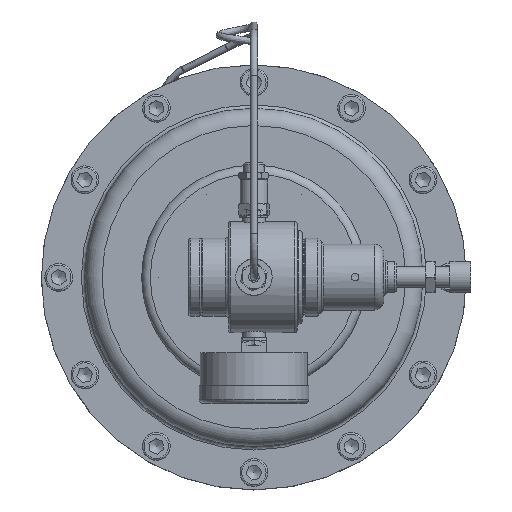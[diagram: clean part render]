
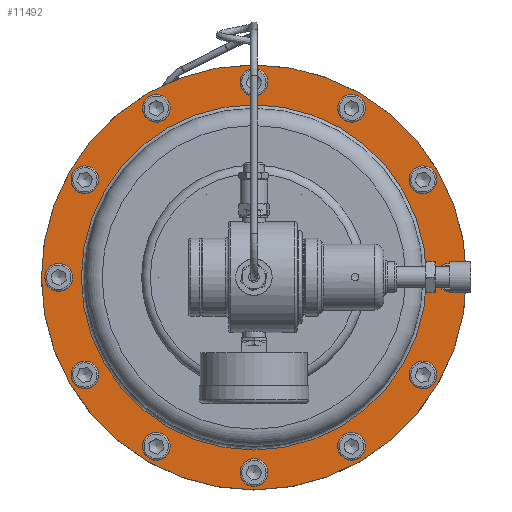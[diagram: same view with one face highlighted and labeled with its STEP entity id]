
A CAD part, top view. The second image highlights one B-rep face of the part: STEP entity #11492.
In plain terms, the highlighted planar face has unit normal (0, 0, 1) as drawn and (0, -1, 0) by its records, which use the part's own axes.
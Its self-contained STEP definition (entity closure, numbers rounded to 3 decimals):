
#10355=CARTESIAN_POINT('',(-101.974,19.,-58.875));
#10356=VERTEX_POINT('',#10355);
#10357=CARTESIAN_POINT('',(-97.428,19.,-56.25));
#10358=DIRECTION('',(0.,1.0,0.));
#10359=DIRECTION('',(0.866,0.,0.5));
#10360=AXIS2_PLACEMENT_3D('',#10357,#10358,#10359);
#10361=CIRCLE('',#10360,5.25);
#10362=EDGE_CURVE('',#10356,#10356,#10361,.T.);
#10404=CARTESIAN_POINT('',(-58.875,19.,-101.974));
#10405=VERTEX_POINT('',#10404);
#10406=CARTESIAN_POINT('',(-56.25,19.,-97.428));
#10407=DIRECTION('',(0.,1.0,0.));
#10408=DIRECTION('',(0.5,0.,0.866));
#10409=AXIS2_PLACEMENT_3D('',#10406,#10407,#10408);
#10410=CIRCLE('',#10409,5.25);
#10411=EDGE_CURVE('',#10405,#10405,#10410,.T.);
#10453=CARTESIAN_POINT('',(0.,19.,-117.75));
#10454=VERTEX_POINT('',#10453);
#10455=CARTESIAN_POINT('',(0.,19.,-112.5));
#10456=DIRECTION('',(0.0,1.0,0.0));
#10457=DIRECTION('',(0.0,0.0,1.0));
#10458=AXIS2_PLACEMENT_3D('',#10455,#10456,#10457);
#10459=CIRCLE('',#10458,5.25);
#10460=EDGE_CURVE('',#10454,#10454,#10459,.T.);
#10502=CARTESIAN_POINT('',(58.875,19.,-101.974));
#10503=VERTEX_POINT('',#10502);
#10504=CARTESIAN_POINT('',(56.25,19.,-97.428));
#10505=DIRECTION('',(0.,1.0,0.));
#10506=DIRECTION('',(-0.5,0.,0.866));
#10507=AXIS2_PLACEMENT_3D('',#10504,#10505,#10506);
#10508=CIRCLE('',#10507,5.25);
#10509=EDGE_CURVE('',#10503,#10503,#10508,.T.);
#10551=CARTESIAN_POINT('',(101.974,19.,-58.875));
#10552=VERTEX_POINT('',#10551);
#10553=CARTESIAN_POINT('',(97.428,19.,-56.25));
#10554=DIRECTION('',(0.,1.0,0.));
#10555=DIRECTION('',(-0.866,0.,0.5));
#10556=AXIS2_PLACEMENT_3D('',#10553,#10554,#10555);
#10557=CIRCLE('',#10556,5.25);
#10558=EDGE_CURVE('',#10552,#10552,#10557,.T.);
#10600=CARTESIAN_POINT('',(117.75,19.,0.));
#10601=VERTEX_POINT('',#10600);
#10602=CARTESIAN_POINT('',(112.5,19.,0.));
#10603=DIRECTION('',(0.0,1.0,0.0));
#10604=DIRECTION('',(-1.0,0.0,0.0));
#10605=AXIS2_PLACEMENT_3D('',#10602,#10603,#10604);
#10606=CIRCLE('',#10605,5.25);
#10607=EDGE_CURVE('',#10601,#10601,#10606,.T.);
#10649=CARTESIAN_POINT('',(101.974,19.,58.875));
#10650=VERTEX_POINT('',#10649);
#10651=CARTESIAN_POINT('',(97.428,19.,56.25));
#10652=DIRECTION('',(0.,1.0,0.));
#10653=DIRECTION('',(-0.866,0.,-0.5));
#10654=AXIS2_PLACEMENT_3D('',#10651,#10652,#10653);
#10655=CIRCLE('',#10654,5.25);
#10656=EDGE_CURVE('',#10650,#10650,#10655,.T.);
#10698=CARTESIAN_POINT('',(58.875,19.,101.974));
#10699=VERTEX_POINT('',#10698);
#10700=CARTESIAN_POINT('',(56.25,19.,97.428));
#10701=DIRECTION('',(0.,1.,0.));
#10702=DIRECTION('',(-0.5,0.,-0.866));
#10703=AXIS2_PLACEMENT_3D('',#10700,#10701,#10702);
#10704=CIRCLE('',#10703,5.25);
#10705=EDGE_CURVE('',#10699,#10699,#10704,.T.);
#10747=CARTESIAN_POINT('',(0.,19.,117.75));
#10748=VERTEX_POINT('',#10747);
#10749=CARTESIAN_POINT('',(0.,19.,112.5));
#10750=DIRECTION('',(0.0,1.0,0.0));
#10751=DIRECTION('',(0.0,0.0,-1.0));
#10752=AXIS2_PLACEMENT_3D('',#10749,#10750,#10751);
#10753=CIRCLE('',#10752,5.25);
#10754=EDGE_CURVE('',#10748,#10748,#10753,.T.);
#10796=CARTESIAN_POINT('',(-58.875,19.,101.974));
#10797=VERTEX_POINT('',#10796);
#10798=CARTESIAN_POINT('',(-56.25,19.,97.428));
#10799=DIRECTION('',(0.,1.,0.));
#10800=DIRECTION('',(0.5,0.,-0.866));
#10801=AXIS2_PLACEMENT_3D('',#10798,#10799,#10800);
#10802=CIRCLE('',#10801,5.25);
#10803=EDGE_CURVE('',#10797,#10797,#10802,.T.);
#10845=CARTESIAN_POINT('',(-101.974,19.,58.875));
#10846=VERTEX_POINT('',#10845);
#10847=CARTESIAN_POINT('',(-97.428,19.,56.25));
#10848=DIRECTION('',(0.,1.0,0.));
#10849=DIRECTION('',(0.866,0.,-0.5));
#10850=AXIS2_PLACEMENT_3D('',#10847,#10848,#10849);
#10851=CIRCLE('',#10850,5.25);
#10852=EDGE_CURVE('',#10846,#10846,#10851,.T.);
#10894=CARTESIAN_POINT('',(-117.75,19.,0.));
#10895=VERTEX_POINT('',#10894);
#10896=CARTESIAN_POINT('',(-112.5,19.,0.0));
#10897=DIRECTION('',(0.0,1.0,0.0));
#10898=DIRECTION('',(1.0,0.0,0.0));
#10899=AXIS2_PLACEMENT_3D('',#10896,#10897,#10898);
#10900=CIRCLE('',#10899,5.25);
#10901=EDGE_CURVE('',#10895,#10895,#10900,.T.);
#11422=CARTESIAN_POINT('',(-99.5,19.,0.0));
#11423=VERTEX_POINT('',#11422);
#11424=CARTESIAN_POINT('',(0.,19.,0.0));
#11425=DIRECTION('',(0.0,1.0,0.0));
#11426=DIRECTION('',(-1.0,0.0,0.0));
#11427=AXIS2_PLACEMENT_3D('',#11424,#11425,#11426);
#11428=CIRCLE('',#11427,99.5);
#11429=EDGE_CURVE('',#11423,#11423,#11428,.T.);
#11437=CARTESIAN_POINT('',(-111.,19.,0.0));
#11438=DIRECTION('',(0.0,-1.0,0.0));
#11439=DIRECTION('',(0.0,0.0,-1.0));
#11440=AXIS2_PLACEMENT_3D('',#11437,#11438,#11439);
#11441=PLANE('',#11440);
#11442=CARTESIAN_POINT('',(-122.5,19.,0.0));
#11443=VERTEX_POINT('',#11442);
#11444=CARTESIAN_POINT('',(0.,19.,0.0));
#11445=DIRECTION('',(0.0,1.0,0.0));
#11446=DIRECTION('',(-1.0,0.0,0.0));
#11447=AXIS2_PLACEMENT_3D('',#11444,#11445,#11446);
#11448=CIRCLE('',#11447,122.5);
#11449=EDGE_CURVE('',#11443,#11443,#11448,.T.);
#11450=ORIENTED_EDGE('',*,*,#11449,.F.);
#11451=EDGE_LOOP('',(#11450));
#11452=FACE_OUTER_BOUND('',#11451,.T.);
#11453=ORIENTED_EDGE('',*,*,#10362,.T.);
#11454=EDGE_LOOP('',(#11453));
#11455=FACE_BOUND('',#11454,.T.);
#11456=ORIENTED_EDGE('',*,*,#10411,.T.);
#11457=EDGE_LOOP('',(#11456));
#11458=FACE_BOUND('',#11457,.T.);
#11459=ORIENTED_EDGE('',*,*,#10460,.T.);
#11460=EDGE_LOOP('',(#11459));
#11461=FACE_BOUND('',#11460,.T.);
#11462=ORIENTED_EDGE('',*,*,#10509,.T.);
#11463=EDGE_LOOP('',(#11462));
#11464=FACE_BOUND('',#11463,.T.);
#11465=ORIENTED_EDGE('',*,*,#10558,.T.);
#11466=EDGE_LOOP('',(#11465));
#11467=FACE_BOUND('',#11466,.T.);
#11468=ORIENTED_EDGE('',*,*,#10607,.T.);
#11469=EDGE_LOOP('',(#11468));
#11470=FACE_BOUND('',#11469,.T.);
#11471=ORIENTED_EDGE('',*,*,#10656,.T.);
#11472=EDGE_LOOP('',(#11471));
#11473=FACE_BOUND('',#11472,.T.);
#11474=ORIENTED_EDGE('',*,*,#10705,.T.);
#11475=EDGE_LOOP('',(#11474));
#11476=FACE_BOUND('',#11475,.T.);
#11477=ORIENTED_EDGE('',*,*,#10754,.T.);
#11478=EDGE_LOOP('',(#11477));
#11479=FACE_BOUND('',#11478,.T.);
#11480=ORIENTED_EDGE('',*,*,#10803,.T.);
#11481=EDGE_LOOP('',(#11480));
#11482=FACE_BOUND('',#11481,.T.);
#11483=ORIENTED_EDGE('',*,*,#10852,.T.);
#11484=EDGE_LOOP('',(#11483));
#11485=FACE_BOUND('',#11484,.T.);
#11486=ORIENTED_EDGE('',*,*,#10901,.T.);
#11487=EDGE_LOOP('',(#11486));
#11488=FACE_BOUND('',#11487,.T.);
#11489=ORIENTED_EDGE('',*,*,#11429,.T.);
#11490=EDGE_LOOP('',(#11489));
#11491=FACE_BOUND('',#11490,.T.);
#11492=ADVANCED_FACE('',(#11452,#11455,#11458,#11461,#11464,#11467,#11470,#11473,#11476,#11479,#11482,#11485,#11488,#11491),#11441,.T.);
